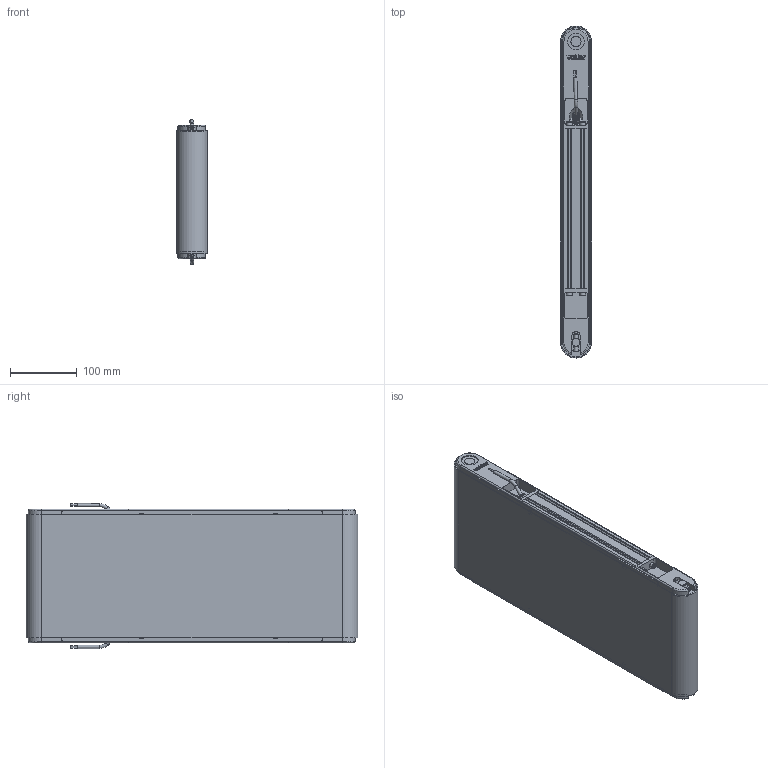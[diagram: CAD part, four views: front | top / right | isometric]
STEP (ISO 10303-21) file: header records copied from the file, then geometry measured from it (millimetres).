
FILE_DESCRIPTION(/* description */ (''),/* implementation_level */ '2;1');
FILE_NAME(/* name */ 'G:\DATEN\CAD\Förderband\Marketing\3D-Modelle (Standard)\FR-40-200\FR-40-200-450-K.stp',/* time_stamp */ '2019-05-08T09:19:03+02:00',/* author */ ('melanie.ochs'),/* organization */ (''),/* preprocessor_version */ 'ST-DEVELOPER v17',/* originating_system */ 'Autodesk Inventor 2019',/* authorisation */ '');
FILE_SCHEMA (('CONFIG_CONTROL_DESIGN'));
Length unit declared in the file: centimetre
Products named in the file (1): FR-40-200-450-K
Bounding box: 46.6 x 496.6 x 217.07 mm (x, y, z)
Volume: 2273185.2 mm3; surface area: 654959.8 mm2
Topology: 7 solids, 25 shells, 1124 faces, 3029 edges, 2003 vertices
Faces by surface type: plane 559, cylinder 328, bspline 124, cone 75, torus 38
Full cylindrical faces by diameter (mm): 2 x4, 4 x6, 4.3 x4, 4.917 x1, 5 x14, 5.5 x8, 6 x4, 6.647 x2, 8 x4, 8.3 x4, 8.5 x8, 8.773 x2, 10 x2, 11 x2, 12 x3, 15 x2, 20 x4, 25 x2, 28 x4
Entity records: 38076 total; most frequent: CARTESIAN_POINT 9220, ORIENTED_EDGE 6034, DIRECTION 5475, EDGE_CURVE 3017, VERTEX_POINT 2003, AXIS2_PLACEMENT_3D 1935, LINE 1605, VECTOR 1605
